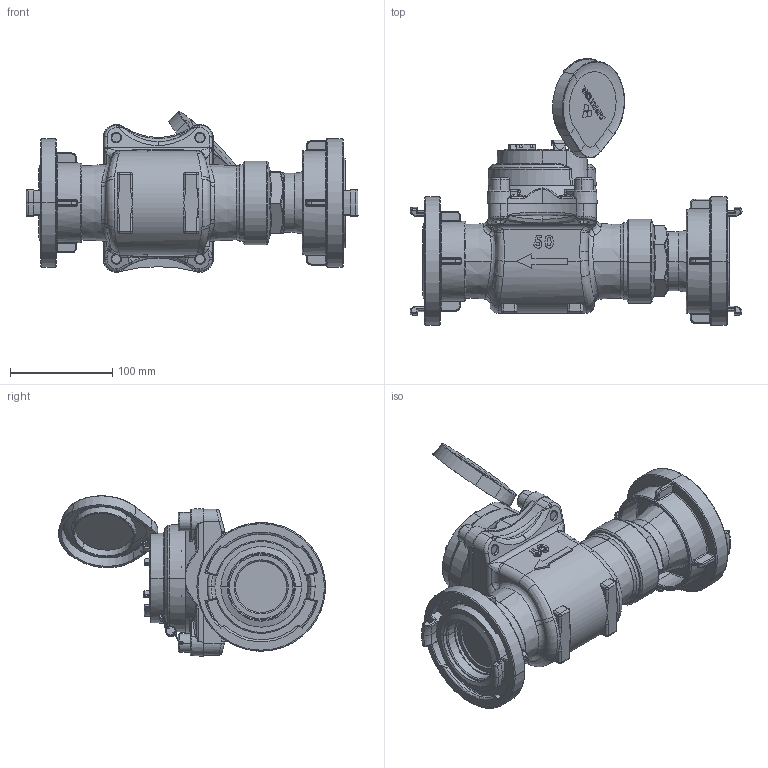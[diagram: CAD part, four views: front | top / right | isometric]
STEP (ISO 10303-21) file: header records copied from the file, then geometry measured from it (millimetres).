
FILE_DESCRIPTION (( 'STEP AP214' ), '1' );
FILE_NAME ('MWN50-GH IP68.STEP', '2025-08-04T06:47:37', ( '' ), ( '' ), 'SwSTEP 2.0', 'SolidWorks 2019', '' );
FILE_SCHEMA (( 'AUTOMOTIVE_DESIGN' ));
Length unit declared in the file: millimetre
Products named in the file (1): MWN50-GH IP68
Bounding box: 325.4 x 261.6 x 157.35 mm (x, y, z)
Surface area: 325118.5 mm2 (no closed solid volume)
Topology: 0 solids, 31 shells, 2563 faces, 6548 edges, 4043 vertices
Faces by surface type: plane 962, cylinder 691, bspline 449, torus 238, cone 187, sphere 36
Entity records: 126406 total; most frequent: CARTESIAN_POINT 39612, ORIENTED_EDGE 12901, DIRECTION 11448, EDGE_CURVE 6453, AXIS2_PLACEMENT_3D 4290, VERTEX_POINT 4042, VECTOR 2868, LINE 2868
